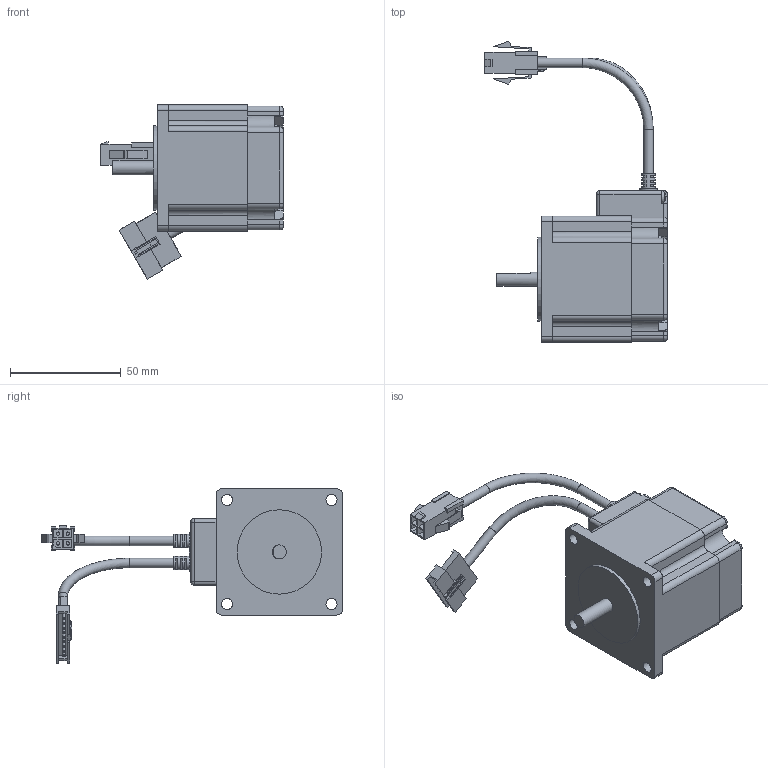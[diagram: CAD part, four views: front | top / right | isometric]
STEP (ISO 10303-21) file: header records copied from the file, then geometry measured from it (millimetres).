
FILE_DESCRIPTION(/* description */ (''),/* implementation_level */ '2;1');
FILE_NAME(/* name */ '\\EMN0D5F01\rp_inventor\RP Mechanical Design\Wiley\Updated Models\eCLM-S231F.stp',/* time_stamp */ '2016-10-27T15:44:41-07:00',/* author */ ('JDB'),/* organization */ ('Parker Hannifin Corp'),/* preprocessor_version */ 'ST-DEVELOPER v15.2',/* originating_system */ 'Autodesk Inventor 2014',/* authorisation */ '');
FILE_SCHEMA (('CONFIG_CONTROL_DESIGN'));
Products named in the file (1): eCLM-S231F_sw
Bounding box: 82.5 x 135.91 x 78.72 mm (x, y, z)
Volume: 149134.9 mm3; surface area: 41745.5 mm2
Topology: 3 solids, 3 shells, 3908 faces, 11419 edges, 7574 vertices
Faces by surface type: plane 3644, cylinder 155, bspline 52, cone 39, torus 10, sphere 8
Full cylindrical faces by diameter (mm): 1 x9, 1.5 x4, 1.6 x4, 2.1 x4, 2.3 x2, 2.5 x3, 4 x5, 4.3 x4, 5 x5, 6 x4, 6.35 x1, 8 x2, 9.2 x1, 17.5 x1, 38.1 x1
Entity records: 126989 total; most frequent: CARTESIAN_POINT 23793, ORIENTED_EDGE 22620, DIRECTION 19441, EDGE_CURVE 11308, LINE 10613, VECTOR 10613, VERTEX_POINT 7538, AXIS2_PLACEMENT_3D 4414
